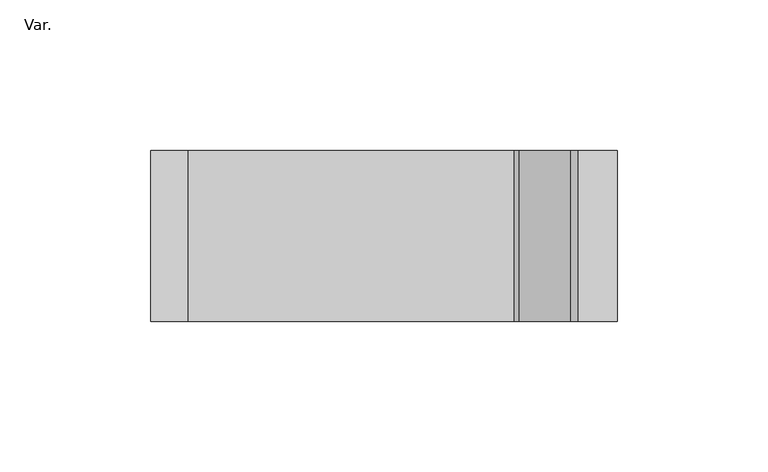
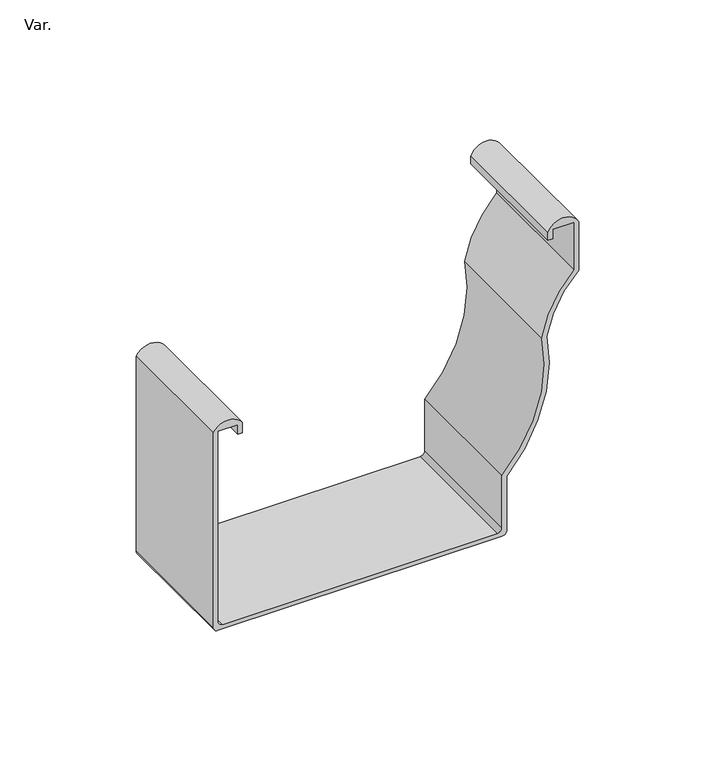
"""IFC4 building model written with IfcOpenShell, lengths in millimetres: pipe fitting geometry, AmancoWavin_Unionesdetubería_CanalesyBajantesZ_NoUsarUniónColonial : Var.."""

from ifc_helpers import new_model, si_unit, point, frame, frame_2d, origin, place, context, project, spatial, polyline, circle_curve, trimmed, segment, composite_curve, outline, extrude, source, transform, mapped, element, save


def var_eb0013ed(model_context):
    return source(origin(), model_context, "Body", "SweptSolid", [
        extrude(outline(composite_curve([segment(polyline([(1.9878921, -75.6), (87.3360329, -75.6), (87.3360329, -67.2332146), (83.1375, -67.2332146), (83.1375, -65.2131805), (87.7283195, -65.2131805)]), True, "CONTINUOUS"), segment(trimmed(circle_curve(frame_2d((83.5910664, -71.2838661)), 7.3464336), [point((87.7283195, -65.2131805))], [point((87.4142443, -77.5570947))], False, "CARTESIAN"), True, "CONTINUOUS"), segment(polyline([(87.4142443, -77.5570947), (0.0034652, -77.5570947)]), True, "CONTINUOUS"), segment(trimmed(circle_curve(frame_2d((0.0034652, -75.5894136)), 1.967681), [point((0.0034652, -77.5570947))], [point((-1.9642158, -75.5894136))], False, "CARTESIAN"), True, "CONTINUOUS"), segment(polyline([(-1.9642158, -75.5894136), (-1.9642158, 44.9967752)]), True, "CONTINUOUS"), segment(trimmed(circle_curve(frame_2d((0.0083729, 44.9967752)), 1.9725887), [point((-1.9642158, 44.9967752))], [point((0.0083729, 46.9693639))], False, "CARTESIAN"), True, "CONTINUOUS"), segment(polyline([(0.0083729, 46.9693639), (24.4356482, 46.9693639)]), True, "CONTINUOUS"), segment(trimmed(circle_curve(frame_2d((69.4880285, -0.2541378)), 65.2669602), [point((24.4356482, 46.9693639))], [point((81.1220171, 63.9675595))], False, "CARTESIAN"), True, "CONTINUOUS"), segment(trimmed(circle_curve(frame_2d((72.4495812, 109.823207)), 46.6685285), [point((81.1220171, 63.9675595))], [point((106.1564886, 77.5463431))], True, "CARTESIAN"), True, "CONTINUOUS"), segment(polyline([(106.1564886, 77.5463431), (127.7398981, 77.5463431)]), True, "CONTINUOUS"), segment(trimmed(circle_curve(frame_2d((124.7542614, 71.0817555)), 7.1207386), [point((127.7398981, 77.5463431))], [point((127.3727618, 64.4599451))], False, "CARTESIAN"), True, "CONTINUOUS"), segment(polyline([(127.3727618, 64.4599451), (124.075, 64.4599451), (124.075, 66.4799725), (128.248325, 66.4799725), (128.248325, 75.6), (107.0001189, 75.6)]), True, "CONTINUOUS"), segment(trimmed(circle_curve(frame_2d((72.4461628, 109.8360782)), 48.6424191), [point((107.0001189, 75.6))], [point((81.1107714, 61.9715873))], False, "CARTESIAN"), True, "CONTINUOUS"), segment(trimmed(circle_curve(frame_2d((69.4907783, -0.2447036)), 63.2921092), [point((81.1107714, 61.9715873))], [point((25.2323567, 45.0))], True, "CARTESIAN"), True, "CONTINUOUS"), segment(polyline([(25.2323567, 45.0), (1.9878921, 45.0)]), True, "CONTINUOUS"), segment(trimmed(circle_curve(frame_2d((1.9878921, 43.02)), 1.98), [point((1.9878921, 45.0))], [point((0.0078921, 43.02))], True, "CARTESIAN"), True, "CONTINUOUS"), segment(polyline([(0.0078921, 43.02), (0.0078921, -73.62)]), True, "CONTINUOUS"), segment(trimmed(circle_curve(frame_2d((1.9878921, -73.62)), 1.98), [point((0.0078921, -73.62))], [point((1.9878921, -75.6))], True, "CARTESIAN"), True, "CONTINUOUS")], self_intersect=False)), frame((0.0, 0.0, 0.0), z_axis=(0.0, 1.0, 0.0), x_axis=(0.0, 0.0, 1.0)), (0.0, 0.0, 1.0), 56.8),
    ])


if __name__ == "__main__":
    model = new_model("IFC4")
    model_context = context("Model", 3, world=origin())
    ifc_project = project(units=[si_unit("LENGTHUNIT", "METRE", prefix="MILLI")], contexts=[model_context])
    site = spatial("IfcSite", under=ifc_project)
    building = spatial("IfcBuilding", under=site)
    placement = place(None, origin())
    var_shape = var_eb0013ed(model_context)
    element("IfcPipeFitting", 1, ObjectType="AmancoWavin_Unionesdetubería_CanalesyBajantesZ_NoUsarUniónColonial : Var.", at=placement, inside=building, context=model_context, shape_type="MappedRepresentation", body=[
        mapped(var_shape, transform((0.0, 0.0, 0.0), x_axis=(1.0, 0.0, 0.0), y_axis=(0.0, 1.0, 0.0), z_axis=(0.0, 0.0, 1.0))),
    ])
    save(model, "model.ifc")
